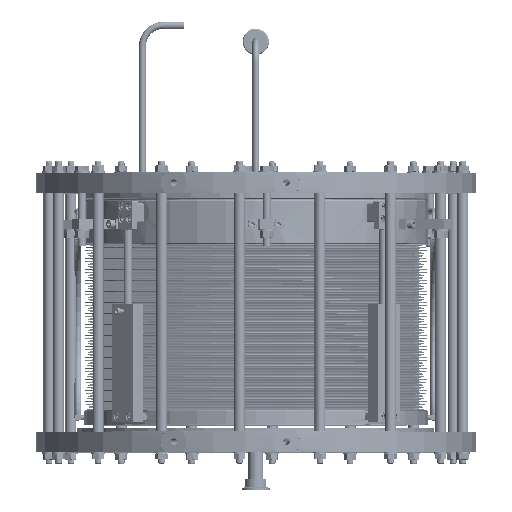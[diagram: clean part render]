
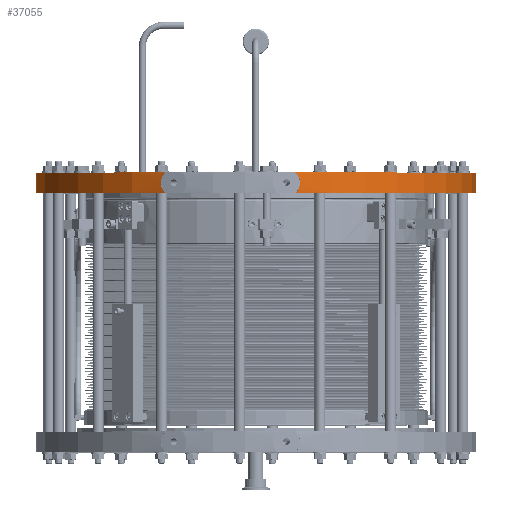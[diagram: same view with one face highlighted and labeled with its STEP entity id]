
A CAD part, top view. The second image highlights one B-rep face of the part: STEP entity #37055.
In plain terms, the highlighted cylindrical face has radius 320 mm (diameter 640 mm), a partial arc.
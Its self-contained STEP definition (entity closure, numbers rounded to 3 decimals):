
#6193=CIRCLE('',#42828,320.);
#6210=CIRCLE('',#42846,320.);
#8340=FACE_OUTER_BOUND('',#10685,.T.);
#10685=EDGE_LOOP('',(#34126,#34127,#34128,#34129));
#15125=B_SPLINE_CURVE_WITH_KNOTS('',3,(#68167,#68168,#68169,#68170,#68171,
#68172,#68173,#68174,#68175,#68176,#68177,#68178,#68179,#68180,#68181,#68182,
#68183,#68184,#68185,#68186,#68187,#68188,#68189),.UNSPECIFIED.,.F.,.F.,
(4,2,2,2,2,3,2,2,2,2,4),(-1.631,-1.507,-1.13,
-0.754,-0.377,0.,0.377,0.754,
1.13,1.507,1.631),.UNSPECIFIED.);
#15127=B_SPLINE_CURVE_WITH_KNOTS('',3,(#68277,#68278,#68279,#68280,#68281,
#68282,#68283,#68284,#68285,#68286,#68287,#68288,#68289,#68290,#68291,#68292,
#68293,#68294,#68295,#68296,#68297,#68298),.UNSPECIFIED.,.F.,.F.,(4,2,2,
2,2,2,2,2,2,2,4),(4.397,4.522,4.898,5.275,
5.652,6.029,6.405,6.782,7.159,
7.536,7.66),.UNSPECIFIED.);
#18341=VERTEX_POINT('',#68161);
#18343=VERTEX_POINT('',#68165);
#18352=VERTEX_POINT('',#68235);
#18371=VERTEX_POINT('',#68275);
#23630=EDGE_CURVE('',#18341,#18343,#15125,.T.);
#23642=EDGE_CURVE('',#18341,#18352,#6193,.T.);
#23662=EDGE_CURVE('',#18371,#18343,#6210,.T.);
#23663=EDGE_CURVE('',#18371,#18352,#15127,.T.);
#34126=ORIENTED_EDGE('',*,*,#23630,.T.);
#34127=ORIENTED_EDGE('',*,*,#23662,.F.);
#34128=ORIENTED_EDGE('',*,*,#23663,.T.);
#34129=ORIENTED_EDGE('',*,*,#23642,.F.);
#35022=CYLINDRICAL_SURFACE('',#42845,320.);
#37055=ADVANCED_FACE('',(#8340),#35022,.T.);
#42828=AXIS2_PLACEMENT_3D('',#68236,#55335,#55336);
#42845=AXIS2_PLACEMENT_3D('',#68274,#55372,#55373);
#42846=AXIS2_PLACEMENT_3D('',#68276,#55374,#55375);
#55335=DIRECTION('center_axis',(0.,0.,1.));
#55336=DIRECTION('ref_axis',(-1.,0.,0.));
#55372=DIRECTION('center_axis',(0.,0.,1.));
#55373=DIRECTION('ref_axis',(0.423,-0.906,0.));
#55374=DIRECTION('center_axis',(0.,0.,-1.));
#55375=DIRECTION('ref_axis',(-1.,0.,0.));
#68161=CARTESIAN_POINT('',(-215.65,236.421,30.));
#68165=CARTESIAN_POINT('',(-215.65,236.421,0.));
#68167=CARTESIAN_POINT('Ctrl Pts',(-215.65,236.421,30.));
#68168=CARTESIAN_POINT('Ctrl Pts',(-215.884,236.208,29.721));
#68169=CARTESIAN_POINT('Ctrl Pts',(-216.109,236.002,29.434));
#68170=CARTESIAN_POINT('Ctrl Pts',(-216.979,235.204,28.254));
#68171=CARTESIAN_POINT('Ctrl Pts',(-217.591,234.637,27.252));
#68172=CARTESIAN_POINT('Ctrl Pts',(-218.667,233.635,25.067));
#68173=CARTESIAN_POINT('Ctrl Pts',(-219.131,233.199,23.886));
#68174=CARTESIAN_POINT('Ctrl Pts',(-219.875,232.498,21.423));
#68175=CARTESIAN_POINT('Ctrl Pts',(-220.156,232.232,20.138));
#68176=CARTESIAN_POINT('Ctrl Pts',(-220.524,231.882,17.555));
#68177=CARTESIAN_POINT('Ctrl Pts',(-220.611,231.799,16.256));
#68178=CARTESIAN_POINT('Ctrl Pts',(-220.611,231.799,15.));
#68179=CARTESIAN_POINT('Ctrl Pts',(-220.611,231.799,13.744));
#68180=CARTESIAN_POINT('Ctrl Pts',(-220.524,231.882,12.445));
#68181=CARTESIAN_POINT('Ctrl Pts',(-220.156,232.232,9.862));
#68182=CARTESIAN_POINT('Ctrl Pts',(-219.875,232.498,8.577));
#68183=CARTESIAN_POINT('Ctrl Pts',(-219.131,233.199,6.114));
#68184=CARTESIAN_POINT('Ctrl Pts',(-218.667,233.635,4.933));
#68185=CARTESIAN_POINT('Ctrl Pts',(-217.591,234.637,2.748));
#68186=CARTESIAN_POINT('Ctrl Pts',(-216.979,235.204,1.746));
#68187=CARTESIAN_POINT('Ctrl Pts',(-216.109,236.002,0.566));
#68188=CARTESIAN_POINT('Ctrl Pts',(-215.884,236.208,0.279));
#68189=CARTESIAN_POINT('Ctrl Pts',(-215.65,236.421,0.));
#68235=CARTESIAN_POINT('',(-42.492,317.166,30.));
#68236=CARTESIAN_POINT('Origin',(0.,0.,30.));
#68274=CARTESIAN_POINT('Origin',(0.,0.,0.));
#68275=CARTESIAN_POINT('',(-42.492,317.166,0.));
#68276=CARTESIAN_POINT('Origin',(0.,0.,0.));
#68277=CARTESIAN_POINT('Ctrl Pts',(-42.492,317.166,0.));
#68278=CARTESIAN_POINT('Ctrl Pts',(-42.178,317.208,0.279));
#68279=CARTESIAN_POINT('Ctrl Pts',(-41.876,317.248,0.566));
#68280=CARTESIAN_POINT('Ctrl Pts',(-40.705,317.402,1.746));
#68281=CARTESIAN_POINT('Ctrl Pts',(-39.877,317.506,2.748));
#68282=CARTESIAN_POINT('Ctrl Pts',(-38.418,317.686,4.933));
#68283=CARTESIAN_POINT('Ctrl Pts',(-37.786,317.762,6.114));
#68284=CARTESIAN_POINT('Ctrl Pts',(-36.771,317.881,8.577));
#68285=CARTESIAN_POINT('Ctrl Pts',(-36.386,317.925,9.862));
#68286=CARTESIAN_POINT('Ctrl Pts',(-35.882,317.982,12.445));
#68287=CARTESIAN_POINT('Ctrl Pts',(-35.763,317.995,13.744));
#68288=CARTESIAN_POINT('Ctrl Pts',(-35.763,317.995,16.256));
#68289=CARTESIAN_POINT('Ctrl Pts',(-35.882,317.982,17.555));
#68290=CARTESIAN_POINT('Ctrl Pts',(-36.386,317.925,20.138));
#68291=CARTESIAN_POINT('Ctrl Pts',(-36.771,317.881,21.423));
#68292=CARTESIAN_POINT('Ctrl Pts',(-37.786,317.762,23.886));
#68293=CARTESIAN_POINT('Ctrl Pts',(-38.418,317.686,25.067));
#68294=CARTESIAN_POINT('Ctrl Pts',(-39.877,317.506,27.252));
#68295=CARTESIAN_POINT('Ctrl Pts',(-40.705,317.402,28.254));
#68296=CARTESIAN_POINT('Ctrl Pts',(-41.876,317.248,29.434));
#68297=CARTESIAN_POINT('Ctrl Pts',(-42.178,317.208,29.721));
#68298=CARTESIAN_POINT('Ctrl Pts',(-42.492,317.166,30.));
